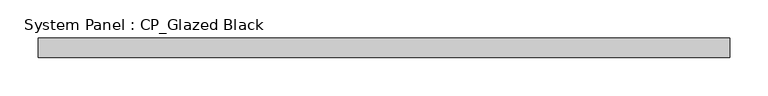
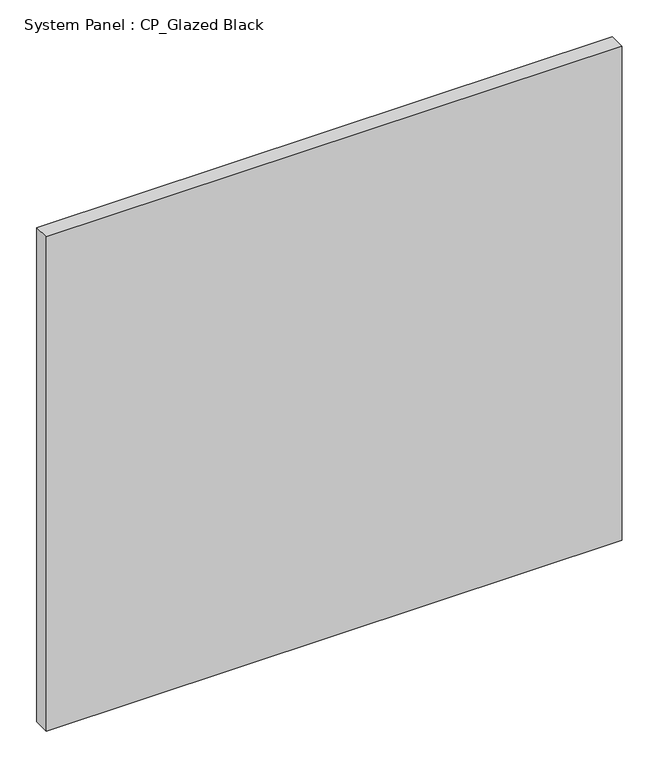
"""IFC4 building model written with IfcOpenShell, lengths in millimetres: plate geometry, System Panel : CP_Glazed Black."""

import ifcopenshell
import ifcopenshell.guid

model = None  # the IFC model being written
_history = None  # IfcOwnerHistory: only IFC2X3 demands one
_inside = {}  # id of a spatial element -> (the spatial element, [elements in it])
_under = {}  # id of a project, library or spatial element -> (it, [spatial elements below it])
_declared = {}  # id of a project -> (the project, [libraries it declares])
_typed = {}  # id of a type object -> (the type object, [elements of that type])
_made_of = {}  # id of a material, layer set ... -> (it, [elements and type objects made of it])


def new_model(schema):
    """Start an empty IFC model of exactly this schema.

    Asked for "IFC4X3", IfcOpenShell would pick the latest addendum, in which some entities
    have other attributes; the version numbers below select the first issue.
    IFC2X3 requires an IfcOwnerHistory on every rooted entity: one is made here for all.
    """
    global model, _history
    if schema == "IFC4X3":
        model = ifcopenshell.file(schema_version=(4, 3, 0, 0))
    else:
        model = ifcopenshell.file(schema=schema)
    _inside.clear()
    _under.clear()
    _declared.clear()
    _typed.clear()
    _made_of.clear()
    _history = None
    if model.schema == "IFC2X3":
        org = make("IfcOrganization", Name="unknown")
        user = make(
            "IfcPersonAndOrganization",
            ThePerson=make("IfcPerson", FamilyName="unknown"),
            TheOrganization=org,
        )
        app = make(
            "IfcApplication",
            ApplicationDeveloper=org,
            Version="unknown",
            ApplicationFullName="unknown",
            ApplicationIdentifier="unknown",
        )
        _history = make(
            "IfcOwnerHistory",
            OwningUser=user,
            OwningApplication=app,
            ChangeAction="ADDED",
            CreationDate=0,
        )
    return model


def make(cls, **values):
    """One entity of the class cls with the attributes given. An attribute that is None is left unset."""
    return model.create_entity(
        cls, **{name: value for name, value in values.items() if value is not None}
    )


def rooted(cls, **values):
    """An entity with a GlobalId (a new one), such as an element, a storey or a relation."""
    return make(cls, GlobalId=ifcopenshell.guid.new(), OwnerHistory=_history, **values)


def si_unit(unit_type, name, prefix=None):
    """IfcSIUnit, for example si_unit("LENGTHUNIT", "METRE", prefix="MILLI")."""
    return make("IfcSIUnit", UnitType=unit_type, Prefix=prefix, Name=name)


def assignment(units):
    """IfcUnitAssignment: the units of a project."""
    return None if units is None else make("IfcUnitAssignment", Units=units)


def point(xyz):
    """IfcCartesianPoint."""
    return None if xyz is None else make("IfcCartesianPoint", Coordinates=xyz)


def direction(xyz):
    """IfcDirection."""
    return None if xyz is None else make("IfcDirection", DirectionRatios=xyz)


def frame(location, z_axis=None, x_axis=None):
    """IfcAxis2Placement3D, a coordinate frame: its origin and axes. An axis left out is left unset."""
    return make(
        "IfcAxis2Placement3D",
        Location=point(location),
        Axis=direction(z_axis),
        RefDirection=direction(x_axis),
    )


def origin():
    """The frame at (0, 0, 0) with its axes left unset."""
    return frame((0.0, 0.0, 0.0))


def origin_with_axes():
    """The frame at (0, 0, 0) with the z axis (0, 0, 1) and the x axis (1, 0, 0) written out."""
    return frame((0.0, 0.0, 0.0), z_axis=(0.0, 0.0, 1.0), x_axis=(1.0, 0.0, 0.0))


def place(relative_to, where):
    """IfcLocalPlacement: puts the frame where relative to a parent placement (None: the world)."""
    return make(
        "IfcLocalPlacement", PlacementRelTo=relative_to, RelativePlacement=where
    )


def context(
    kind, dimensions, precision=None, world=None, true_north=None, identifier=None
):
    """IfcGeometricRepresentationContext, for example the 3D "Model" context."""
    return make(
        "IfcGeometricRepresentationContext",
        ContextIdentifier=identifier,
        ContextType=kind,
        CoordinateSpaceDimension=dimensions,
        Precision=precision,
        WorldCoordinateSystem=world,
        TrueNorth=true_north,
    )


def project(units=None, contexts=None):
    """IfcProject with its units and contexts."""
    return rooted(
        "IfcProject",
        Name="project",
        RepresentationContexts=contexts,
        UnitsInContext=assignment(units),
    )


def spatial(cls, under=None, at=None, **own):
    """A site, building, storey or space (cls), placed at a placement, below another one or the project."""
    s = rooted(cls, ObjectPlacement=at, **own)
    if under is not None:
        _under.setdefault(under.id(), (under, []))[1].append(s)
    return s


def polyline(points):
    """IfcPolyline through the points."""
    return make("IfcPolyline", Points=[point(p) for p in points])


def outline(outer, holes=None, kind="AREA"):
    """IfcArbitraryClosedProfileDef: a profile drawn as a closed curve; with holes, ...WithVoids."""
    if holes is None:
        return make("IfcArbitraryClosedProfileDef", ProfileType=kind, OuterCurve=outer)
    return make(
        "IfcArbitraryProfileDefWithVoids",
        ProfileType=kind,
        OuterCurve=outer,
        InnerCurves=holes,
    )


def extrude(swept, where, along, depth):
    """IfcExtrudedAreaSolid: the profile swept, set in the frame where, extruded along a direction by depth."""
    return make(
        "IfcExtrudedAreaSolid",
        SweptArea=swept,
        Position=where,
        ExtrudedDirection=direction(along),
        Depth=depth,
    )


def shape(context_of_items, identifier, shape_type, items):
    """IfcShapeRepresentation: the items that make up one representation, for example the "Body"."""
    return make(
        "IfcShapeRepresentation",
        ContextOfItems=context_of_items,
        RepresentationIdentifier=identifier,
        RepresentationType=shape_type,
        Items=items,
    )


def source(mapping_origin, context_of_items, identifier, shape_type, items):
    """IfcRepresentationMap: a shape defined once, which mapped items show again and again."""
    return make(
        "IfcRepresentationMap",
        MappingOrigin=mapping_origin,
        MappedRepresentation=shape(context_of_items, identifier, shape_type, items),
    )


def transform(
    local_origin,
    x_axis=None,
    y_axis=None,
    z_axis=None,
    scale=None,
    scale2=None,
    scale3=None,
    uniform=True,
):
    """IfcCartesianTransformationOperator3D, or its non-uniform kind. x_axis, y_axis, z_axis: its Axis1, 2, 3."""
    if uniform:
        return make(
            "IfcCartesianTransformationOperator3D",
            Axis1=direction(x_axis),
            Axis2=direction(y_axis),
            LocalOrigin=point(local_origin),
            Scale=scale,
            Axis3=direction(z_axis),
        )
    return make(
        "IfcCartesianTransformationOperator3DnonUniform",
        Axis1=direction(x_axis),
        Axis2=direction(y_axis),
        LocalOrigin=point(local_origin),
        Scale=scale,
        Axis3=direction(z_axis),
        Scale2=scale2,
        Scale3=scale3,
    )


def mapped(mapping_source, mapping_target):
    """IfcMappedItem: shows the shape of a source again, moved by a transform."""
    return make(
        "IfcMappedItem", MappingSource=mapping_source, MappingTarget=mapping_target
    )


def made_of(thing, what):
    """Note that an element or type object is made of a material, layer set ...; save() writes the relation."""
    if what is not None:
        _made_of.setdefault(what.id(), (what, []))[1].append(thing)
    return thing


def element(
    cls,
    number,
    at=None,
    inside=None,
    cuts=None,
    type_object=None,
    material=None,
    context=None,
    identifier="Body",
    shape_type=None,
    held_by="IfcProductDefinitionShape",
    body=None,
    shapes=None,
    **own,
):
    """One element of the class cls, such as IfcWall. Its Tag is "e" and its number.

    at: its placement. inside: the storey or other place that contains it. cuts: it is an
    opening in that element (IfcRelVoidsElement). A single representation is given by context,
    identifier, shape_type and body (its items); several are given by shapes. held_by: the class
    of the entity that holds the representations. save() writes the other relations.
    """
    e = rooted(cls, Tag="e%d" % number, ObjectPlacement=at, **own)
    if body is not None:
        shapes = [shape(context, identifier, shape_type, body)]
    if shapes is not None:
        e.Representation = make(held_by, Representations=shapes)
    if inside is not None:
        _inside.setdefault(inside.id(), (inside, []))[1].append(e)
    if cuts is not None:
        rooted(
            "IfcRelVoidsElement", RelatingBuildingElement=cuts, RelatedOpeningElement=e
        )
    if type_object is not None:
        _typed.setdefault(type_object.id(), (type_object, []))[1].append(e)
    return made_of(e, material)


def aggregate(whole, parts):
    """IfcRelAggregates: a whole, such as a stair, and the parts it consists of."""
    return rooted("IfcRelAggregates", RelatingObject=whole, RelatedObjects=parts)


def save(model, path):
    """Write the relations noted so far, then the file.

    IfcRelAggregates (storeys below a building ...), IfcRelContainedInSpatialStructure (elements
    in a storey), IfcRelDefinesByType, IfcRelAssociatesMaterial and IfcRelDeclares: one each for
    every whole, place, type object, material and project.
    """
    for whole, parts in _under.values():
        aggregate(whole, parts)
    for where, things in _inside.values():
        rooted(
            "IfcRelContainedInSpatialStructure",
            RelatedElements=things,
            RelatingStructure=where,
        )
    for kind, things in _typed.values():
        rooted("IfcRelDefinesByType", RelatedObjects=things, RelatingType=kind)
    for what, things in _made_of.values():
        rooted("IfcRelAssociatesMaterial", RelatedObjects=things, RelatingMaterial=what)
    for by, libraries in _declared.values():
        rooted("IfcRelDeclares", RelatingContext=by, RelatedDefinitions=libraries)
    model.write(path)


def system_panel_cp_glazed_black_47b21efd(model_context):
    return source(origin(), model_context, "Body", "SweptSolid", [
        extrude(outline(polyline([(451.601522, 19.05), (-451.601522, 19.05), (-451.601522, 44.45), (451.601522, 44.45), (451.601522, 19.05)])), origin_with_axes(), (0.0, 0.0, 1.0), 819.15),
    ])


if __name__ == "__main__":
    model = new_model("IFC4")
    model_context = context("Model", 3, world=origin())
    ifc_project = project(units=[si_unit("LENGTHUNIT", "METRE", prefix="MILLI")], contexts=[model_context])
    site = spatial("IfcSite", under=ifc_project)
    building = spatial("IfcBuilding", under=site)
    placement = place(None, origin())
    system_panel_cp_glazed_black_shape = system_panel_cp_glazed_black_47b21efd(model_context)
    element("IfcPlate", 1, ObjectType="System Panel : CP_Glazed Black", at=placement, inside=building, context=model_context, shape_type="MappedRepresentation", body=[
        mapped(system_panel_cp_glazed_black_shape, transform((0.0, 0.0, 0.0), x_axis=(1.0, 0.0, 0.0), y_axis=(0.0, 1.0, 0.0), z_axis=(0.0, 0.0, 1.0))),
    ])
    save(model, "model.ifc")
